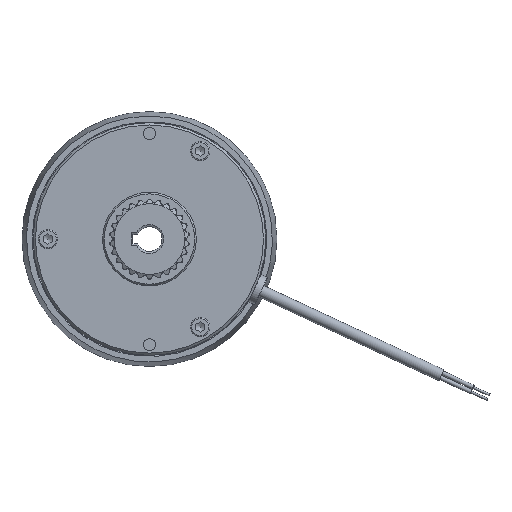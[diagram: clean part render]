
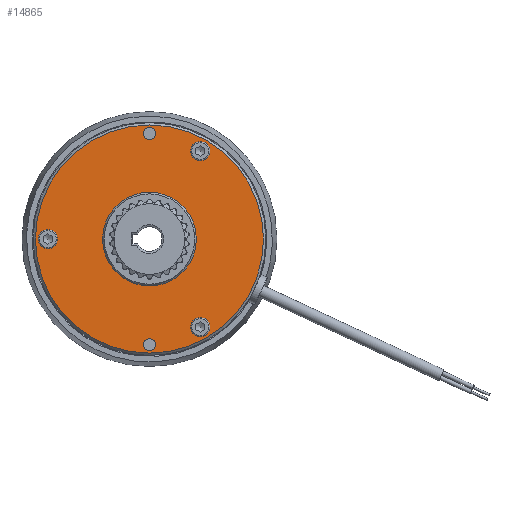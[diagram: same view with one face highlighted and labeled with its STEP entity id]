
A CAD part, left-side view. The second image highlights one B-rep face of the part: STEP entity #14865.
In plain terms, the highlighted planar face has unit normal (-1, 0, 0).
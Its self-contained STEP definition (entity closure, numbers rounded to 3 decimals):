
#170=FACE_BOUND('',#3829,.T.);
#171=FACE_BOUND('',#3830,.T.);
#172=FACE_BOUND('',#3831,.T.);
#173=FACE_BOUND('',#3832,.T.);
#174=FACE_BOUND('',#3833,.T.);
#175=FACE_BOUND('',#3834,.T.);
#452=PLANE('',#16263);
#3090=FACE_OUTER_BOUND('',#3828,.T.);
#3828=EDGE_LOOP('',(#13143));
#3829=EDGE_LOOP('',(#13144,#13145));
#3830=EDGE_LOOP('',(#13146,#13147));
#3831=EDGE_LOOP('',(#13148,#13149));
#3832=EDGE_LOOP('',(#13150,#13151));
#3833=EDGE_LOOP('',(#13152,#13153));
#3834=EDGE_LOOP('',(#13154));
#4948=CIRCLE('',#15764,4.25);
#4949=CIRCLE('',#15765,4.25);
#4962=CIRCLE('',#15792,4.25);
#4963=CIRCLE('',#15793,4.25);
#4976=CIRCLE('',#15820,4.25);
#4977=CIRCLE('',#15821,4.25);
#5219=CIRCLE('',#16254,2.65);
#5220=CIRCLE('',#16255,2.65);
#5222=CIRCLE('',#16258,2.65);
#5223=CIRCLE('',#16259,2.65);
#5225=CIRCLE('',#16262,50.5);
#5226=CIRCLE('',#16264,20.75);
#6159=VERTEX_POINT('',#27348);
#6160=VERTEX_POINT('',#27349);
#6186=VERTEX_POINT('',#27440);
#6187=VERTEX_POINT('',#27441);
#6213=VERTEX_POINT('',#27532);
#6214=VERTEX_POINT('',#27533);
#6706=VERTEX_POINT('',#31584);
#6707=VERTEX_POINT('',#31585);
#6709=VERTEX_POINT('',#31592);
#6710=VERTEX_POINT('',#31593);
#6712=VERTEX_POINT('',#31600);
#6713=VERTEX_POINT('',#31604);
#8094=EDGE_CURVE('',#6159,#6160,#4948,.T.);
#8095=EDGE_CURVE('',#6160,#6159,#4949,.T.);
#8131=EDGE_CURVE('',#6186,#6187,#4962,.T.);
#8132=EDGE_CURVE('',#6187,#6186,#4963,.T.);
#8168=EDGE_CURVE('',#6213,#6214,#4976,.T.);
#8169=EDGE_CURVE('',#6214,#6213,#4977,.T.);
#8889=EDGE_CURVE('',#6706,#6707,#5219,.T.);
#8890=EDGE_CURVE('',#6707,#6706,#5220,.T.);
#8893=EDGE_CURVE('',#6709,#6710,#5222,.T.);
#8894=EDGE_CURVE('',#6710,#6709,#5223,.T.);
#8898=EDGE_CURVE('',#6712,#6712,#5225,.T.);
#8899=EDGE_CURVE('',#6713,#6713,#5226,.T.);
#13143=ORIENTED_EDGE('',*,*,#8898,.F.);
#13144=ORIENTED_EDGE('',*,*,#8094,.T.);
#13145=ORIENTED_EDGE('',*,*,#8095,.T.);
#13146=ORIENTED_EDGE('',*,*,#8131,.T.);
#13147=ORIENTED_EDGE('',*,*,#8132,.T.);
#13148=ORIENTED_EDGE('',*,*,#8168,.T.);
#13149=ORIENTED_EDGE('',*,*,#8169,.T.);
#13150=ORIENTED_EDGE('',*,*,#8889,.T.);
#13151=ORIENTED_EDGE('',*,*,#8890,.T.);
#13152=ORIENTED_EDGE('',*,*,#8893,.T.);
#13153=ORIENTED_EDGE('',*,*,#8894,.T.);
#13154=ORIENTED_EDGE('',*,*,#8899,.T.);
#14865=ADVANCED_FACE('',(#3090,#170,#171,#172,#173,#174,#175),#452,.T.);
#15764=AXIS2_PLACEMENT_3D('',#27350,#18436,#18437);
#15765=AXIS2_PLACEMENT_3D('',#27351,#18438,#18439);
#15792=AXIS2_PLACEMENT_3D('',#27442,#18508,#18509);
#15793=AXIS2_PLACEMENT_3D('',#27443,#18510,#18511);
#15820=AXIS2_PLACEMENT_3D('',#27534,#18580,#18581);
#15821=AXIS2_PLACEMENT_3D('',#27535,#18582,#18583);
#16254=AXIS2_PLACEMENT_3D('',#31586,#19736,#19737);
#16255=AXIS2_PLACEMENT_3D('',#31587,#19738,#19739);
#16258=AXIS2_PLACEMENT_3D('',#31594,#19745,#19746);
#16259=AXIS2_PLACEMENT_3D('',#31595,#19747,#19748);
#16262=AXIS2_PLACEMENT_3D('',#31602,#19755,#19756);
#16263=AXIS2_PLACEMENT_3D('',#31603,#19757,#19758);
#16264=AXIS2_PLACEMENT_3D('',#31605,#19759,#19760);
#18436=DIRECTION('center_axis',(1.,0.,0.));
#18437=DIRECTION('ref_axis',(0.,-1.,0.));
#18438=DIRECTION('center_axis',(1.,0.,0.));
#18439=DIRECTION('ref_axis',(0.,-1.,0.));
#18508=DIRECTION('center_axis',(1.,0.,0.));
#18509=DIRECTION('ref_axis',(0.,-0.5,-0.866));
#18510=DIRECTION('center_axis',(1.,0.,0.));
#18511=DIRECTION('ref_axis',(0.,-0.5,-0.866));
#18580=DIRECTION('center_axis',(1.,0.,0.));
#18581=DIRECTION('ref_axis',(0.,-1.,0.));
#18582=DIRECTION('center_axis',(1.,0.,0.));
#18583=DIRECTION('ref_axis',(0.,-1.,0.));
#19736=DIRECTION('center_axis',(1.,0.,0.));
#19737=DIRECTION('ref_axis',(0.,0.,
1.));
#19738=DIRECTION('center_axis',(1.,0.,0.));
#19739=DIRECTION('ref_axis',(0.,0.,
1.));
#19745=DIRECTION('center_axis',(1.,0.,0.));
#19746=DIRECTION('ref_axis',(0.,0.,
1.));
#19747=DIRECTION('center_axis',(1.,0.,0.));
#19748=DIRECTION('ref_axis',(0.,0.,
1.));
#19755=DIRECTION('center_axis',(1.,0.,0.));
#19756=DIRECTION('ref_axis',(0.,-1.,0.));
#19757=DIRECTION('center_axis',(-1.,0.,0.));
#19758=DIRECTION('ref_axis',(0.,0.,
1.));
#19759=DIRECTION('center_axis',(1.,0.,0.));
#19760=DIRECTION('ref_axis',(0.,0.,
1.));
#27348=CARTESIAN_POINT('',(-18.2,-26.75,-38.971));
#27349=CARTESIAN_POINT('',(-18.2,-18.25,-38.971));
#27350=CARTESIAN_POINT('Origin',(-18.2,-22.5,-38.971));
#27351=CARTESIAN_POINT('Origin',(-18.2,-22.5,-38.971));
#27440=CARTESIAN_POINT('',(-18.2,42.875,-3.681));
#27441=CARTESIAN_POINT('',(-18.2,47.125,3.681));
#27442=CARTESIAN_POINT('Origin',(-18.2,45.,0.));
#27443=CARTESIAN_POINT('Origin',(-18.2,45.,0.));
#27532=CARTESIAN_POINT('',(-18.2,-26.75,38.971));
#27533=CARTESIAN_POINT('',(-18.2,-18.25,38.971));
#27534=CARTESIAN_POINT('Origin',(-18.2,-22.5,38.971));
#27535=CARTESIAN_POINT('Origin',(-18.2,-22.5,38.971));
#31584=CARTESIAN_POINT('',(-18.2,0.,-44.1));
#31585=CARTESIAN_POINT('',(-18.2,0.,-49.4));
#31586=CARTESIAN_POINT('Origin',(-18.2,0.,-46.75));
#31587=CARTESIAN_POINT('Origin',(-18.2,0.,-46.75));
#31592=CARTESIAN_POINT('',(-18.2,0.,49.4));
#31593=CARTESIAN_POINT('',(-18.2,0.,44.1));
#31594=CARTESIAN_POINT('Origin',(-18.2,0.,46.75));
#31595=CARTESIAN_POINT('Origin',(-18.2,0.,46.75));
#31600=CARTESIAN_POINT('',(-18.2,50.5,0.));
#31602=CARTESIAN_POINT('Origin',(-18.2,0.,0.));
#31603=CARTESIAN_POINT('Origin',(-18.2,25.75,0.));
#31604=CARTESIAN_POINT('',(-18.2,0.,-20.75));
#31605=CARTESIAN_POINT('Origin',(-18.2,0.,0.));
